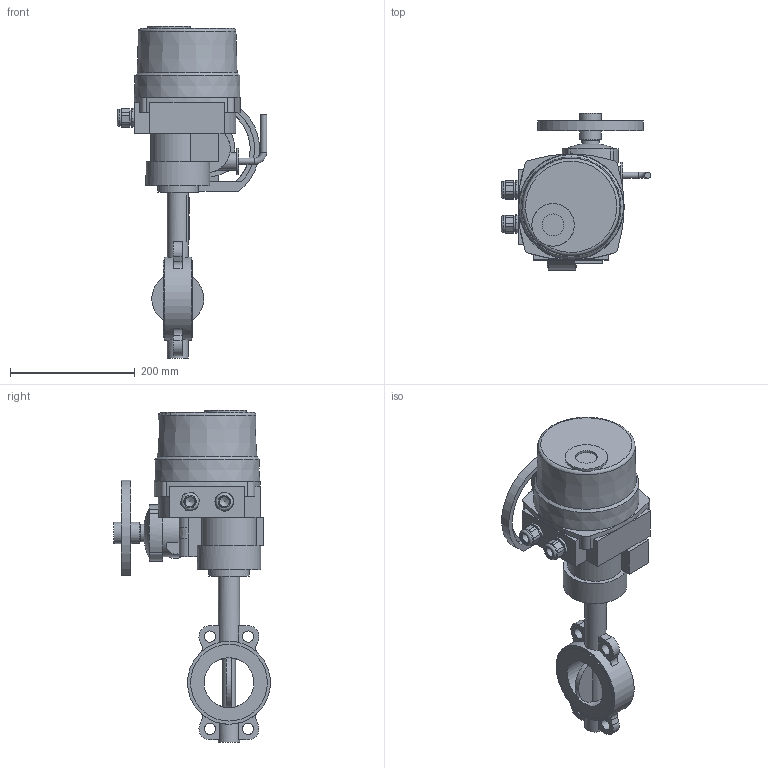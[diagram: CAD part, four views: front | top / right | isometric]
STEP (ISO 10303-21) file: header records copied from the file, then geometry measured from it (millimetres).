
FILE_DESCRIPTION(('STEP AP203'), '1');
FILE_NAME('青蜮铕 017WDN80+菹 QT5-1', '', ('UNSPECIFIED'), ('UNSPECIFIED'), 'ASCON STEP Converter 1.6', 'ASCON Math Kernel', '');
FILE_SCHEMA(('CONFIG_CONTROL_DESIGN'));
Length unit declared in the file: millimetre
Bounding box: 239.5 x 251.5 x 532 mm (x, y, z)
Volume: 5072498.8 mm3; surface area: 360331 mm2
Topology: 2 solids, 3 shells, 839 faces, 2386 edges, 1535 vertices
Faces by surface type: cylinder 551, plane 273, cone 9, torus 5, bspline 1
Full cylindrical faces by diameter (mm): 4.917 x4, 8 x4, 10 x2, 12.6 x1, 16 x2, 17 x2, 18 x4, 20 x1, 22.835 x2, 25 x2, 28 x3, 28.026 x1, 34 x4, 35 x2, 40 x1, 42 x1, 65 x1, 68 x1, 80 x1, 102 x1, 123 x2, 133 x1
Entity records: 35246 total; most frequent: CARTESIAN_POINT 5848, DIRECTION 5155, ORIENTED_EDGE 4581, EDGE_CURVE 2322, AXIS2_PLACEMENT_3D 2026, VERTEX_POINT 1528, CIRCLE 1188, LINE 1103
